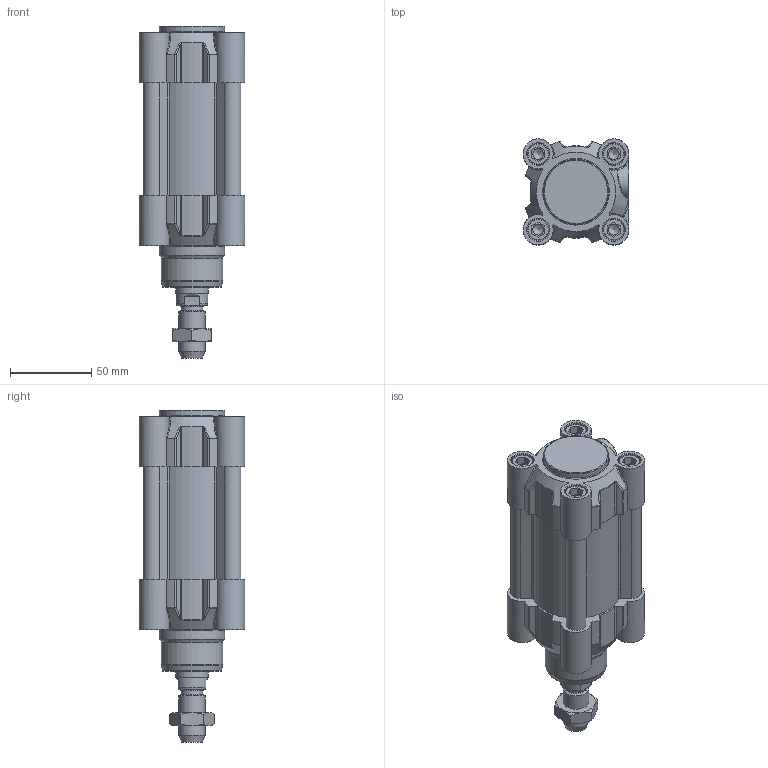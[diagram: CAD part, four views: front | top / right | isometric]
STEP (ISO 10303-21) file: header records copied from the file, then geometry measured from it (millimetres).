
FILE_DESCRIPTION(/* description */ ('Unknown'),/* implementation_level */ '2;1');
FILE_NAME(/* name */ 'HIF 50_25',/* time_stamp */ '2024-08-12T08:45:38+02:00',/* author */ ('Unknown'),/* organization */ ('Unknown'),/* preprocessor_version */ 'ST-DEVELOPER v16.7',/* originating_system */ 'Solid Edge',/* authorisation */ 'Unknown');
FILE_SCHEMA (('AUTOMOTIVE_DESIGN {1 0 10303 214 3 1 1}'));
Length unit declared in the file: millimetre
Products named in the file (6): HIF 50_25; Kit_2; Kit_1; Profilrohr 50_25; Kolbenstange 50_25; Mutter
Assembly tree (5 placements, depth 2):
  HIF 50_25
    Kit_2
    Kit_1
    Profilrohr 50_25
    Kolbenstange 50_25
    Mutter
Bounding box: 64.99 x 64.97 x 204 mm (x, y, z)
Volume: 396971.9 mm3; surface area: 128823.2 mm2
Topology: 5 solids, 19 shells, 1076 faces, 2677 edges, 1691 vertices
Faces by surface type: plane 385, cylinder 377, cone 106, torus 102, bspline 60, sphere 46
Full cylindrical faces by diameter (mm): 1.479 x2, 2.8 x2, 6.647 x16, 8 x8, 8.3 x8, 9 x2, 10 x2, 11.44 x2, 11.445 x2, 13 x8, 13.3 x8, 13.5 x1, 14.376 x1, 16 x1, 19.5 x1, 20 x2, 20.5 x1, 20.8 x1, 20.847 x1, 24 x2, 30 x2, 38 x1, 40 x2, 50 x2
Entity records: 40868 total; most frequent: CARTESIAN_POINT 10033, ORIENTED_EDGE 5152, DIRECTION 4858, EDGE_CURVE 2576, AXIS2_PLACEMENT_3D 1911, VERTEX_POINT 1673, FACE_BOUND 1231, EDGE_LOOP 1223
